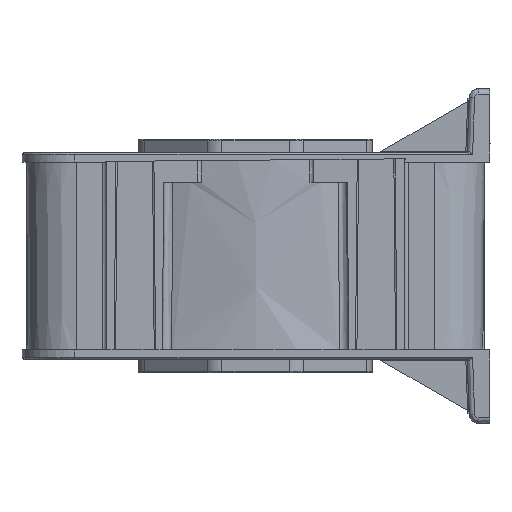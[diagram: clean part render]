
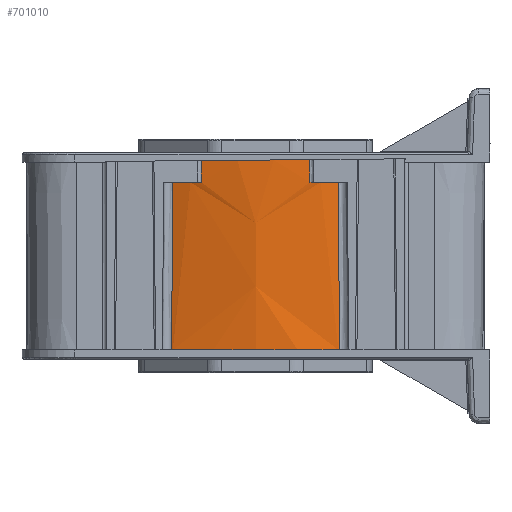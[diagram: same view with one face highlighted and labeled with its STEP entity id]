
A CAD part, front view. The second image highlights one B-rep face of the part: STEP entity #701010.
In plain terms, the highlighted conical face has half-angle 0.5 degrees and reference radius 54 mm.
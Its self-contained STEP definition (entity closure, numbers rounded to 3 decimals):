
#409290=CARTESIAN_POINT('',(-17.633,-49.645,
33.429));
#409300=VERTEX_POINT('',#409290);
#409330=CARTESIAN_POINT('',(-17.616,-49.67,
35.45));
#409340=CARTESIAN_POINT('',(-17.679,-49.578,
27.974));
#409350=CARTESIAN_POINT('',(-17.742,-49.487,
20.498));
#409360=CARTESIAN_POINT('',(-17.867,-49.303,
5.565));
#409370=CARTESIAN_POINT('',(-17.93,-49.211,
-1.893));
#409380=CARTESIAN_POINT('',(-17.993,-49.119,
-9.35));
#409390=B_SPLINE_CURVE_WITH_KNOTS('',3,(#409330,#409340,#409350,#409360,
#409370,#409380),.UNSPECIFIED.,.F.,.F.,(4,2,4),(41.1,
63.53,85.904),.UNSPECIFIED.);
#409400=CARTESIAN_POINT('',(-17.98,-49.138,-7.85));
#409410=VERTEX_POINT('',#409400);
#409420=EDGE_CURVE('',#409300,#409410,#409390,.T.);
#411780=CARTESIAN_POINT('',(14.593,-50.786,
28.75));
#411790=VERTEX_POINT('',#411780);
#411820=CARTESIAN_POINT('',(0.372,1.26,28.75));
#411830=DIRECTION('',(0.,0.,1.));
#411840=DIRECTION('',(1.,0.,0.));
#411850=AXIS2_PLACEMENT_3D('',#411820,#411830,#411840);
#411860=CIRCLE('',#411850,53.955);
#411870=CARTESIAN_POINT('',(12.218,-51.378,
28.75));
#411880=VERTEX_POINT('',#411870);
#411890=EDGE_CURVE('',#411880,#411790,#411860,.T.);
#423460=CARTESIAN_POINT('',(-17.697,-49.24,
-7.85));
#423470=VERTEX_POINT('',#423460);
#423580=CARTESIAN_POINT('',(18.441,-49.24,
-7.85));
#423590=VERTEX_POINT('',#423580);
#690890=CARTESIAN_POINT('',(0.372,1.26,-7.85));
#690900=DIRECTION('',(0.,0.,1.));
#690910=DIRECTION('',(1.,0.,0.));
#690920=AXIS2_PLACEMENT_3D('',#690890,#690900,#690910);
#690930=CIRCLE('',#690920,53.635);
#690940=CARTESIAN_POINT('',(18.723,-49.138,
-7.85));
#690950=VERTEX_POINT('',#690940);
#690960=EDGE_CURVE('',#423590,#690950,#690930,.T.);
#699060=CARTESIAN_POINT('',(18.736,-49.119,
-9.35));
#699070=CARTESIAN_POINT('',(18.673,-49.211,
-1.893));
#699080=CARTESIAN_POINT('',(18.61,-49.303,
5.565));
#699090=CARTESIAN_POINT('',(18.485,-49.487,
20.498));
#699100=CARTESIAN_POINT('',(18.422,-49.578,
27.974));
#699110=CARTESIAN_POINT('',(18.359,-49.67,
35.45));
#699120=B_SPLINE_CURVE_WITH_KNOTS('',3,(#699060,#699070,#699080,#699090,
#699100,#699110),.UNSPECIFIED.,.F.,.F.,(4,2,4),(41.581,
63.955,86.386),.UNSPECIFIED.);
#699130=CARTESIAN_POINT('',(18.373,-49.649,
33.743));
#699140=VERTEX_POINT('',#699130);
#699150=EDGE_CURVE('',#690950,#699140,#699120,.T.);
#700150=CARTESIAN_POINT('',(0.372,1.26,33.95));
#700160=DIRECTION('',(0.,0.,1.));
#700170=DIRECTION('',(1.,0.,0.));
#700180=AXIS2_PLACEMENT_3D('',#700150,#700160,#700170);
#700190=CONICAL_SURFACE('',#700180,54.,0.009);
#700200=CARTESIAN_POINT('',(-13.849,-50.836,
34.25));
#700210=CARTESIAN_POINT('',(-13.849,-50.827,
33.284));
#700220=CARTESIAN_POINT('',(-13.849,-50.819,
32.317));
#700230=CARTESIAN_POINT('',(-13.849,-50.801,
30.384));
#700240=CARTESIAN_POINT('',(-13.849,-50.792,
29.417));
#700250=CARTESIAN_POINT('',(-13.849,-50.784,
28.45));
#700260=B_SPLINE_CURVE_WITH_KNOTS('',3,(#700200,#700210,#700220,#700230,
#700240,#700250),.UNSPECIFIED.,.F.,.F.,(4,2,4),(54.811,
57.71,60.611),.UNSPECIFIED.);
#700270=CARTESIAN_POINT('',(-13.849,-50.829,
33.462));
#700280=VERTEX_POINT('',#700270);
#700290=CARTESIAN_POINT('',(-13.849,-50.786,
28.75));
#700300=VERTEX_POINT('',#700290);
#700310=EDGE_CURVE('',#700280,#700300,#700260,.T.);
#700320=ORIENTED_EDGE('',*,*,#700310,.F.);
#700330=CARTESIAN_POINT('',(0.372,1.26,28.75));
#700340=DIRECTION('',(0.,0.,1.));
#700350=DIRECTION('',(1.,0.,0.));
#700360=AXIS2_PLACEMENT_3D('',#700330,#700340,#700350);
#700370=CIRCLE('',#700360,53.955);
#700380=CARTESIAN_POINT('',(-11.475,-51.378,
28.75));
#700390=VERTEX_POINT('',#700380);
#700400=EDGE_CURVE('',#700300,#700390,#700370,.T.);
#700410=ORIENTED_EDGE('',*,*,#700400,.F.);
#700420=CARTESIAN_POINT('',(-11.475,-51.43,
34.65));
#700430=CARTESIAN_POINT('',(-11.475,-51.421,
33.549));
#700440=CARTESIAN_POINT('',(-11.475,-51.411,
32.449));
#700450=CARTESIAN_POINT('',(-11.475,-51.391,
30.249));
#700460=CARTESIAN_POINT('',(-11.475,-51.381,
29.149));
#700470=CARTESIAN_POINT('',(-11.475,-51.371,
28.05));
#700480=B_SPLINE_CURVE_WITH_KNOTS('',3,(#700420,#700430,#700440,#700450,
#700460,#700470),.UNSPECIFIED.,.F.,.F.,(4,2,4),(56.833,
60.135,63.434),.UNSPECIFIED.);
#700490=CARTESIAN_POINT('',(-11.475,-51.42,
33.483));
#700500=VERTEX_POINT('',#700490);
#700510=EDGE_CURVE('',#700500,#700390,#700480,.T.);
#700520=ORIENTED_EDGE('',*,*,#700510,.T.);
#700530=CARTESIAN_POINT('',(0.376,1.26,33.586)
);
#700540=DIRECTION('',(0.009,0.,-1.));
#700550=DIRECTION('',(1.,0.,0.009));
#700560=AXIS2_PLACEMENT_3D('',#700530,#700540,#700550);
#700570=ELLIPSE('',#700560,53.999,53.997);
#700580=CARTESIAN_POINT('',(12.218,-51.422,
33.69));
#700590=VERTEX_POINT('',#700580);
#700600=EDGE_CURVE('',#700590,#700500,#700570,.T.);
#700610=ORIENTED_EDGE('',*,*,#700600,.T.);
#700620=CARTESIAN_POINT('',(12.218,-51.43,
34.65));
#700630=CARTESIAN_POINT('',(12.218,-51.421,
33.549));
#700640=CARTESIAN_POINT('',(12.218,-51.411,
32.449));
#700650=CARTESIAN_POINT('',(12.218,-51.391,
30.249));
#700660=CARTESIAN_POINT('',(12.218,-51.381,
29.149));
#700670=CARTESIAN_POINT('',(12.218,-51.371,
28.05));
#700680=B_SPLINE_CURVE_WITH_KNOTS('',3,(#700620,#700630,#700640,#700650,
#700660,#700670),.UNSPECIFIED.,.F.,.F.,(4,2,4),(54.922,
58.224,61.522),.UNSPECIFIED.);
#700690=EDGE_CURVE('',#700590,#411880,#700680,.T.);
#700700=ORIENTED_EDGE('',*,*,#700690,.F.);
#700710=ORIENTED_EDGE('',*,*,#411890,.F.);
#700720=CARTESIAN_POINT('',(14.593,-50.784,
28.45));
#700730=CARTESIAN_POINT('',(14.593,-50.792,
29.417));
#700740=CARTESIAN_POINT('',(14.593,-50.801,
30.384));
#700750=CARTESIAN_POINT('',(14.593,-50.819,
32.317));
#700760=CARTESIAN_POINT('',(14.593,-50.827,
33.284));
#700770=CARTESIAN_POINT('',(14.593,-50.836,
34.25));
#700780=B_SPLINE_CURVE_WITH_KNOTS('',3,(#700720,#700730,#700740,#700750,
#700760,#700770),.UNSPECIFIED.,.F.,.F.,(4,2,4),(52.913,
55.814,58.713),.UNSPECIFIED.);
#700790=CARTESIAN_POINT('',(14.593,-50.831,
33.71));
#700800=VERTEX_POINT('',#700790);
#700810=EDGE_CURVE('',#411790,#700800,#700780,.T.);
#700820=ORIENTED_EDGE('',*,*,#700810,.F.);
#700830=EDGE_CURVE('',#699140,#700800,#700570,.T.);
#700840=ORIENTED_EDGE('',*,*,#700830,.T.);
#700850=ORIENTED_EDGE('',*,*,#699150,.T.);
#700860=ORIENTED_EDGE('',*,*,#690960,.T.);
#700870=CARTESIAN_POINT('',(0.372,1.26,-7.85));
#700880=DIRECTION('',(0.,0.,1.));
#700890=DIRECTION('',(1.,0.,0.));
#700900=AXIS2_PLACEMENT_3D('',#700870,#700880,#700890);
#700910=CIRCLE('',#700900,53.635);
#700920=EDGE_CURVE('',#423470,#423590,#700910,.T.);
#700930=ORIENTED_EDGE('',*,*,#700920,.T.);
#700940=EDGE_CURVE('',#409410,#423470,#690930,.T.);
#700950=ORIENTED_EDGE('',*,*,#700940,.T.);
#700960=ORIENTED_EDGE('',*,*,#409420,.T.);
#700970=EDGE_CURVE('',#700280,#409300,#700570,.T.);
#700980=ORIENTED_EDGE('',*,*,#700970,.T.);
#700990=EDGE_LOOP('',(#700980,#700960,#700950,#700930,#700860,#700850,
#700840,#700820,#700710,#700700,#700610,#700520,#700410,#700320));
#701000=FACE_OUTER_BOUND('',#700990,.T.);
#701010=ADVANCED_FACE('',(#701000),#700190,.T.);
